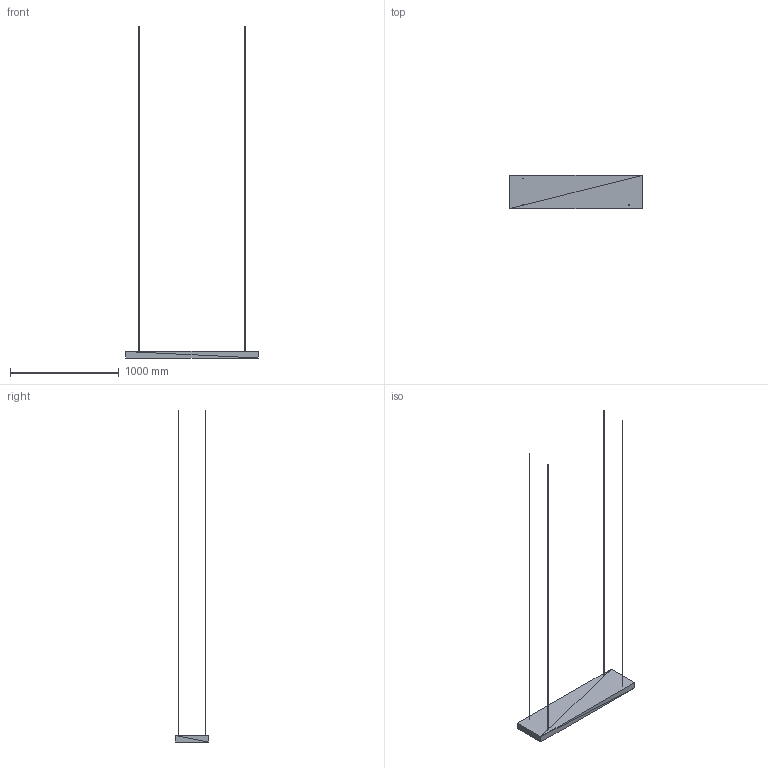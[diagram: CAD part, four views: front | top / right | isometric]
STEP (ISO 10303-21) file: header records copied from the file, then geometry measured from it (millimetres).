
FILE_DESCRIPTION(('ISINAC STEP AP214'),'2;1');
FILE_NAME('ISINAC_R.1220.305_60mm_COLGADO','2026-05-03T10:49:19',('ISINAC'),('www.isinac.com'),'ISINAC BIM Generator 1.0','','');
FILE_SCHEMA(('AUTOMOTIVE_DESIGN'));
Length unit declared in the file: millimetre
Products named in the file (1): ISINAC_R.1220.305_60mm_COLGADO
Bounding box: 1220 x 305 x 3060 mm (x, y, z)
Surface area: 1035246 mm2 (no closed solid volume)
Topology: 0 solids, 92 shells, 92 faces, 276 edges, 276 vertices
Faces by surface type: plane 92
Entity records: 1025 total; most frequent: CARTESIAN_POINT 368, DIRECTION 184, POLY_LOOP 92, FACE_OUTER_BOUND 92, AXIS2_PLACEMENT_3D 92, PLANE 92, FACE_SURFACE 92, CLOSED_SHELL 1
